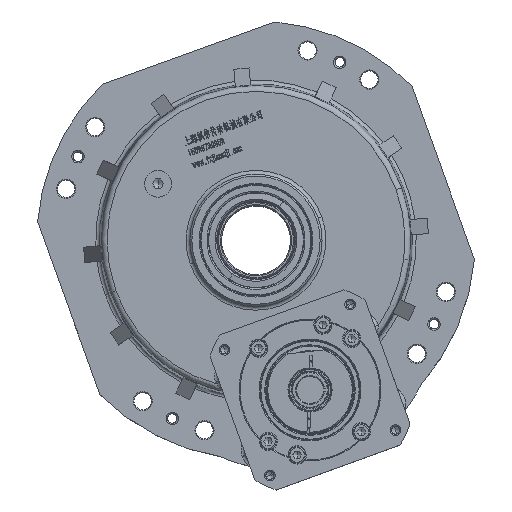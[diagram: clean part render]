
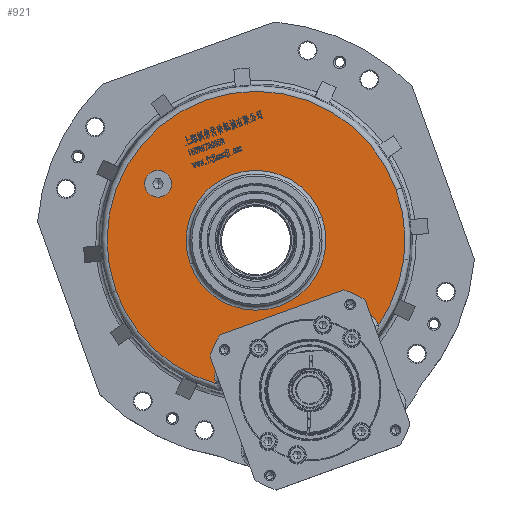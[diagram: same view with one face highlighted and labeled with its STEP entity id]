
A CAD part, top view. The second image highlights one B-rep face of the part: STEP entity #921.
In plain terms, the highlighted planar face has unit normal (0, 0, 1).
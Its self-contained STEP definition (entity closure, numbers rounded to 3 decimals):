
#921 = ADVANCED_FACE ( 'NONE', ( #90076, #8602, #70984 ), #21039, .F. ) ;
#1775 = DIRECTION ( 'NONE',  ( 0., 0., 1. ) ) ;
#3579 = EDGE_CURVE ( 'NONE', #52922, #36379, #98122, .T. ) ;
#3613 = VERTEX_POINT ( 'NONE', #106045 ) ;
#4555 = DIRECTION ( 'NONE',  ( -0.119, -0.993, 0. ) ) ;
#7034 = AXIS2_PLACEMENT_3D ( 'NONE', #32343, #62556, #90215 ) ;
#8602 = FACE_BOUND ( 'NONE', #83840, .T. ) ;
#8938 = VERTEX_POINT ( 'NONE', #54558 ) ;
#9188 = CIRCLE ( 'NONE', #42781, 5.5 ) ;
#9432 = CIRCLE ( 'NONE', #24152, 9.398 ) ;
#10632 = CARTESIAN_POINT ( 'NONE',  ( 0., 0., 45. ) ) ;
#12240 = AXIS2_PLACEMENT_3D ( 'NONE', #26345, #28961, #88132 ) ;
#12516 = AXIS2_PLACEMENT_3D ( 'NONE', #119700, #61088, #40134 ) ;
#15594 = AXIS2_PLACEMENT_3D ( 'NONE', #102253, #110805, #61437 ) ;
#15692 = ORIENTED_EDGE ( 'NONE', *, *, #58949, .F. ) ;
#15699 = ORIENTED_EDGE ( 'NONE', *, *, #106092, .F. ) ;
#16600 = CARTESIAN_POINT ( 'NONE',  ( -38., 45., 45. ) ) ;
#17246 = DIRECTION ( 'NONE',  ( 1., 0., 0. ) ) ;
#18217 = CARTESIAN_POINT ( 'NONE',  ( -38., 45., 45. ) ) ;
#18649 = VERTEX_POINT ( 'NONE', #81442 ) ;
#19612 = CIRCLE ( 'NONE', #7034, 1.102 ) ;
#20399 = CARTESIAN_POINT ( 'NONE',  ( -30.553, -54.514, 45. ) ) ;
#21039 = PLANE ( 'NONE',  #12516 ) ;
#22736 = VERTEX_POINT ( 'NONE', #47237 ) ;
#23929 = CIRCLE ( 'NONE', #15594, 77.603 ) ;
#24152 = AXIS2_PLACEMENT_3D ( 'NONE', #110888, #82594, #102991 ) ;
#24658 = AXIS2_PLACEMENT_3D ( 'NONE', #65808, #48687, #105942 ) ;
#26345 = CARTESIAN_POINT ( 'NONE',  ( -35.507, -62.5, 45. ) ) ;
#28496 = CARTESIAN_POINT ( 'NONE',  ( 30.553, -54.514, 45. ) ) ;
#28808 = VERTEX_POINT ( 'NONE', #20399 ) ;
#28961 = DIRECTION ( 'NONE',  ( 0., 0., 1. ) ) ;
#31811 = ORIENTED_EDGE ( 'NONE', *, *, #117666, .F. ) ;
#32343 = CARTESIAN_POINT ( 'NONE',  ( -29.972, -53.577, 45. ) ) ;
#32457 = EDGE_CURVE ( 'NONE', #117480, #52233, #121529, .T. ) ;
#36379 = VERTEX_POINT ( 'NONE', #28496 ) ;
#37859 = DIRECTION ( 'NONE',  ( 0., 0., 1. ) ) ;
#40134 = DIRECTION ( 'NONE',  ( 0., -1., 0. ) ) ;
#42781 = AXIS2_PLACEMENT_3D ( 'NONE', #16600, #127089, #17246 ) ;
#42865 = ORIENTED_EDGE ( 'NONE', *, *, #58599, .F. ) ;
#44494 = EDGE_CURVE ( 'NONE', #18649, #28808, #19612, .T. ) ;
#44788 = CARTESIAN_POINT ( 'NONE',  ( -44.905, -62.5, 45. ) ) ;
#45448 = CARTESIAN_POINT ( 'NONE',  ( -77.603, 0., 45. ) ) ;
#45595 = VERTEX_POINT ( 'NONE', #45448 ) ;
#46606 = EDGE_CURVE ( 'NONE', #8938, #3613, #9188, .T. ) ;
#47237 = CARTESIAN_POINT ( 'NONE',  ( 77.603, 0., 45. ) ) ;
#47845 = EDGE_LOOP ( 'NONE', ( #91057, #15699, #127792, #127548, #42865, #82158, #126645, #92570, #15692 ) ) ;
#48687 = DIRECTION ( 'NONE',  ( 0., 0., -1. ) ) ;
#52233 = VERTEX_POINT ( 'NONE', #116398 ) ;
#52922 = VERTEX_POINT ( 'NONE', #76375 ) ;
#54558 = CARTESIAN_POINT ( 'NONE',  ( -32.5, 45., 45. ) ) ;
#54833 = EDGE_CURVE ( 'NONE', #28808, #116960, #9432, .T. ) ;
#58599 = EDGE_CURVE ( 'NONE', #116960, #116464, #89925, .T. ) ;
#58949 = EDGE_CURVE ( 'NONE', #36379, #114646, #96223, .T. ) ;
#59148 = CIRCLE ( 'NONE', #115880, 36.424 ) ;
#60895 = DIRECTION ( 'NONE',  ( -1., 0., 0. ) ) ;
#61088 = DIRECTION ( 'NONE',  ( 0., 0., -1. ) ) ;
#61437 = DIRECTION ( 'NONE',  ( 0., 1., 0. ) ) ;
#62556 = DIRECTION ( 'NONE',  ( 0., 0., -1. ) ) ;
#65808 = CARTESIAN_POINT ( 'NONE',  ( 0., 0., 45. ) ) ;
#69351 = CARTESIAN_POINT ( 'NONE',  ( 0., -83., 45. ) ) ;
#70687 = DIRECTION ( 'NONE',  ( 0., 1., 0. ) ) ;
#70984 = FACE_OUTER_BOUND ( 'NONE', #47845, .T. ) ;
#71096 = AXIS2_PLACEMENT_3D ( 'NONE', #120690, #80556, #70687 ) ;
#73904 = CIRCLE ( 'NONE', #99086, 40.898 ) ;
#75136 = DIRECTION ( 'NONE',  ( 0., 0., 1. ) ) ;
#75258 = EDGE_LOOP ( 'NONE', ( #92211, #31811 ) ) ;
#75627 = CARTESIAN_POINT ( 'NONE',  ( 29.185, -54.349, 45. ) ) ;
#76375 = CARTESIAN_POINT ( 'NONE',  ( 44.869, -63.316, 45. ) ) ;
#77581 = CARTESIAN_POINT ( 'NONE',  ( -44.869, -63.316, 45. ) ) ;
#78789 = AXIS2_PLACEMENT_3D ( 'NONE', #18217, #107629, #98428 ) ;
#79949 = ORIENTED_EDGE ( 'NONE', *, *, #101181, .T. ) ;
#80556 = DIRECTION ( 'NONE',  ( 0., 0., -1. ) ) ;
#81314 = CARTESIAN_POINT ( 'NONE',  ( 0., 0., 45. ) ) ;
#81442 = CARTESIAN_POINT ( 'NONE',  ( -29.185, -54.349, 45. ) ) ;
#82158 = ORIENTED_EDGE ( 'NONE', *, *, #54833, .F. ) ;
#82594 = DIRECTION ( 'NONE',  ( 0., 0., 1. ) ) ;
#83577 = DIRECTION ( 'NONE',  ( 0., 0., 1. ) ) ;
#83673 = AXIS2_PLACEMENT_3D ( 'NONE', #81314, #1775, #60895 ) ;
#83840 = EDGE_LOOP ( 'NONE', ( #86147, #79949 ) ) ;
#84756 = CARTESIAN_POINT ( 'NONE',  ( 29.972, -53.577, 45. ) ) ;
#85558 = CIRCLE ( 'NONE', #24658, 77.603 ) ;
#85584 = EDGE_CURVE ( 'NONE', #114646, #18649, #73904, .T. ) ;
#86147 = ORIENTED_EDGE ( 'NONE', *, *, #46606, .T. ) ;
#88132 = DIRECTION ( 'NONE',  ( -0.618, 0.786, 0. ) ) ;
#89925 = CIRCLE ( 'NONE', #12240, 9.398 ) ;
#90076 = FACE_BOUND ( 'NONE', #75258, .T. ) ;
#90215 = DIRECTION ( 'NONE',  ( 0.119, -0.993, 0. ) ) ;
#91057 = ORIENTED_EDGE ( 'NONE', *, *, #3579, .F. ) ;
#92211 = ORIENTED_EDGE ( 'NONE', *, *, #32457, .F. ) ;
#92570 = ORIENTED_EDGE ( 'NONE', *, *, #85584, .F. ) ;
#95521 = DIRECTION ( 'NONE',  ( 0.618, 0.786, 0. ) ) ;
#96223 = CIRCLE ( 'NONE', #129889, 1.102 ) ;
#98122 = CIRCLE ( 'NONE', #108627, 9.398 ) ;
#98428 = DIRECTION ( 'NONE',  ( 1., 0., 0. ) ) ;
#99086 = AXIS2_PLACEMENT_3D ( 'NONE', #69351, #37859, #110112 ) ;
#99291 = EDGE_CURVE ( 'NONE', #116464, #45595, #23929, .T. ) ;
#101181 = EDGE_CURVE ( 'NONE', #3613, #8938, #108202, .T. ) ;
#102253 = CARTESIAN_POINT ( 'NONE',  ( 0., 0., 45. ) ) ;
#102991 = DIRECTION ( 'NONE',  ( -0.618, 0.786, 0. ) ) ;
#105942 = DIRECTION ( 'NONE',  ( 0., 1., 0. ) ) ;
#106045 = CARTESIAN_POINT ( 'NONE',  ( -43.5, 45., 45. ) ) ;
#106092 = EDGE_CURVE ( 'NONE', #22736, #52922, #85558, .T. ) ;
#107629 = DIRECTION ( 'NONE',  ( 0., 0., -1. ) ) ;
#108202 = CIRCLE ( 'NONE', #78789, 5.5 ) ;
#108627 = AXIS2_PLACEMENT_3D ( 'NONE', #115905, #75136, #95521 ) ;
#110112 = DIRECTION ( 'NONE',  ( 0., 1., 0. ) ) ;
#110805 = DIRECTION ( 'NONE',  ( 0., 0., -1. ) ) ;
#110888 = CARTESIAN_POINT ( 'NONE',  ( -35.507, -62.5, 45. ) ) ;
#110990 = CIRCLE ( 'NONE', #71096, 77.603 ) ;
#112832 = CARTESIAN_POINT ( 'NONE',  ( -36.424, 0., 45. ) ) ;
#114335 = EDGE_CURVE ( 'NONE', #45595, #22736, #110990, .T. ) ;
#114646 = VERTEX_POINT ( 'NONE', #75627 ) ;
#115880 = AXIS2_PLACEMENT_3D ( 'NONE', #10632, #83577, #123724 ) ;
#115905 = CARTESIAN_POINT ( 'NONE',  ( 35.507, -62.5, 45. ) ) ;
#116398 = CARTESIAN_POINT ( 'NONE',  ( 36.424, 0., 45. ) ) ;
#116464 = VERTEX_POINT ( 'NONE', #77581 ) ;
#116960 = VERTEX_POINT ( 'NONE', #44788 ) ;
#117480 = VERTEX_POINT ( 'NONE', #112832 ) ;
#117666 = EDGE_CURVE ( 'NONE', #52233, #117480, #59148, .T. ) ;
#119700 = CARTESIAN_POINT ( 'NONE',  ( 0., 0., 45. ) ) ;
#120690 = CARTESIAN_POINT ( 'NONE',  ( 0., 0., 45. ) ) ;
#121529 = CIRCLE ( 'NONE', #83673, 36.424 ) ;
#122969 = DIRECTION ( 'NONE',  ( 0., 0., -1. ) ) ;
#123724 = DIRECTION ( 'NONE',  ( -1., 0., 0. ) ) ;
#126645 = ORIENTED_EDGE ( 'NONE', *, *, #44494, .F. ) ;
#127089 = DIRECTION ( 'NONE',  ( 0., 0., -1. ) ) ;
#127548 = ORIENTED_EDGE ( 'NONE', *, *, #99291, .F. ) ;
#127792 = ORIENTED_EDGE ( 'NONE', *, *, #114335, .F. ) ;
#129889 = AXIS2_PLACEMENT_3D ( 'NONE', #84756, #122969, #4555 ) ;
